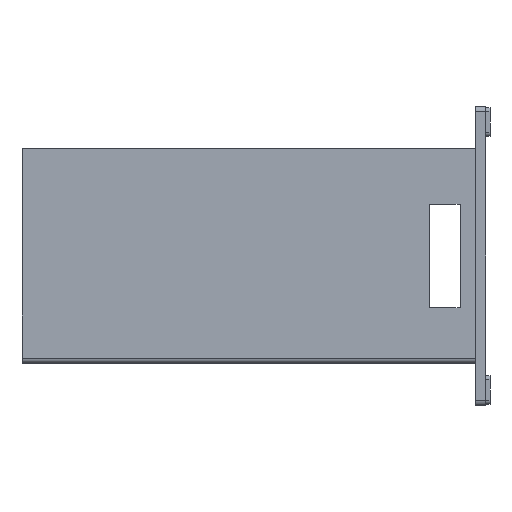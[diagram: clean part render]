
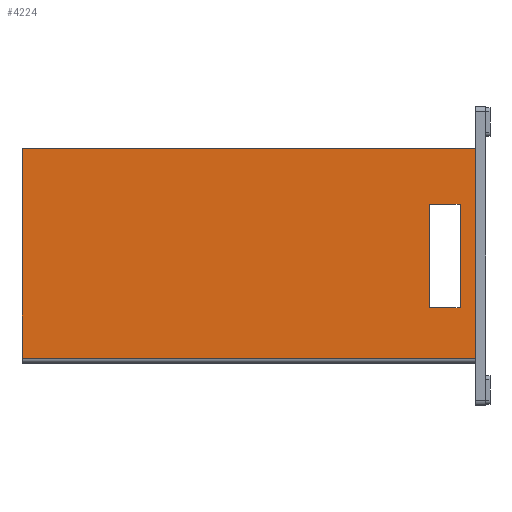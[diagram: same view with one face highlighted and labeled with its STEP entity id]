
A CAD part, left-side view. The second image highlights one B-rep face of the part: STEP entity #4224.
In plain terms, the highlighted planar face has unit normal (-1, 0, 0).
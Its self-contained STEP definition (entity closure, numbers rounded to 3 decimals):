
#2 = FACE_BOUND ( 'NONE', #1280, .T. ) ;
#41 = LINE ( 'NONE', #3788, #648 ) ;
#218 = AXIS2_PLACEMENT_3D ( 'NONE', #3032, #219, #1450 ) ;
#219 = DIRECTION ( 'NONE',  ( 1., 0., 0. ) ) ;
#224 = CARTESIAN_POINT ( 'NONE',  ( -208., 40., -100. ) ) ;
#249 = ORIENTED_EDGE ( 'NONE', *, *, #682, .F. ) ;
#410 = EDGE_CURVE ( 'NONE', #2257, #2829, #4633, .T. ) ;
#477 = VECTOR ( 'NONE', #2692, 1000. ) ;
#488 = DIRECTION ( 'NONE',  ( 0., 0., 1. ) ) ;
#492 = EDGE_LOOP ( 'NONE', ( #3376, #699, #3505, #4834 ) ) ;
#529 = DIRECTION ( 'NONE',  ( 0., -1., 0. ) ) ;
#583 = CARTESIAN_POINT ( 'NONE',  ( -208., 10., -290. ) ) ;
#615 = CARTESIAN_POINT ( 'NONE',  ( -208., 890., -198. ) ) ;
#648 = VECTOR ( 'NONE', #781, 1000. ) ;
#682 = EDGE_CURVE ( 'NONE', #2829, #2181, #3855, .T. ) ;
#693 = VERTEX_POINT ( 'NONE', #2148 ) ;
#699 = ORIENTED_EDGE ( 'NONE', *, *, #855, .F. ) ;
#745 = CARTESIAN_POINT ( 'NONE',  ( -208., 100., 100. ) ) ;
#746 = CARTESIAN_POINT ( 'NONE',  ( -208., 10., 208. ) ) ;
#765 = EDGE_CURVE ( 'NONE', #693, #2257, #5188, .T. ) ;
#781 = DIRECTION ( 'NONE',  ( 0., -1., 0. ) ) ;
#855 = EDGE_CURVE ( 'NONE', #3324, #4358, #41, .T. ) ;
#948 = VECTOR ( 'NONE', #1211, 1000. ) ;
#1064 = EDGE_CURVE ( 'NONE', #5016, #3324, #4460, .T. ) ;
#1076 = EDGE_CURVE ( 'NONE', #5016, #2952, #3336, .T. ) ;
#1135 = DIRECTION ( 'NONE',  ( 0., 0., -1. ) ) ;
#1139 = VECTOR ( 'NONE', #1135, 1000. ) ;
#1211 = DIRECTION ( 'NONE',  ( 0., 1., 0. ) ) ;
#1280 = EDGE_LOOP ( 'NONE', ( #2855, #3455, #3751, #249 ) ) ;
#1450 = DIRECTION ( 'NONE',  ( 0., 0., -1. ) ) ;
#1458 = DIRECTION ( 'NONE',  ( 0., 0., -1. ) ) ;
#1704 = CARTESIAN_POINT ( 'NONE',  ( -208., 100., -100. ) ) ;
#1845 = CARTESIAN_POINT ( 'NONE',  ( -208., 100., -100. ) ) ;
#1862 = PLANE ( 'NONE',  #218 ) ;
#1959 = EDGE_CURVE ( 'NONE', #2181, #693, #3247, .T. ) ;
#2035 = LINE ( 'NONE', #583, #1139 ) ;
#2148 = CARTESIAN_POINT ( 'NONE',  ( -208., 40., 100. ) ) ;
#2181 = VERTEX_POINT ( 'NONE', #224 ) ;
#2257 = VERTEX_POINT ( 'NONE', #745 ) ;
#2361 = FACE_OUTER_BOUND ( 'NONE', #492, .T. ) ;
#2574 = CARTESIAN_POINT ( 'NONE',  ( -208., 100., 100. ) ) ;
#2638 = CARTESIAN_POINT ( 'NONE',  ( -208., 100., -100. ) ) ;
#2692 = DIRECTION ( 'NONE',  ( 0., -1., 0. ) ) ;
#2829 = VERTEX_POINT ( 'NONE', #2638 ) ;
#2855 = ORIENTED_EDGE ( 'NONE', *, *, #410, .F. ) ;
#2865 = VECTOR ( 'NONE', #1458, 1000. ) ;
#2952 = VERTEX_POINT ( 'NONE', #3811 ) ;
#3032 = CARTESIAN_POINT ( 'NONE',  ( -208., 890., -208. ) ) ;
#3090 = CARTESIAN_POINT ( 'NONE',  ( -208., 890., 208. ) ) ;
#3184 = CARTESIAN_POINT ( 'NONE',  ( -208., 40., -100. ) ) ;
#3247 = LINE ( 'NONE', #3184, #3626 ) ;
#3324 = VERTEX_POINT ( 'NONE', #3090 ) ;
#3336 = LINE ( 'NONE', #5101, #3780 ) ;
#3376 = ORIENTED_EDGE ( 'NONE', *, *, #3782, .F. ) ;
#3455 = ORIENTED_EDGE ( 'NONE', *, *, #765, .F. ) ;
#3505 = ORIENTED_EDGE ( 'NONE', *, *, #1064, .F. ) ;
#3626 = VECTOR ( 'NONE', #488, 1000. ) ;
#3751 = ORIENTED_EDGE ( 'NONE', *, *, #1959, .F. ) ;
#3780 = VECTOR ( 'NONE', #529, 1000. ) ;
#3782 = EDGE_CURVE ( 'NONE', #4358, #2952, #2035, .T. ) ;
#3788 = CARTESIAN_POINT ( 'NONE',  ( -208., 890., 208. ) ) ;
#3811 = CARTESIAN_POINT ( 'NONE',  ( -208., 10., -198. ) ) ;
#3855 = LINE ( 'NONE', #1845, #477 ) ;
#4224 = ADVANCED_FACE ( 'NONE', ( #2361, #2 ), #1862, .F. ) ;
#4358 = VERTEX_POINT ( 'NONE', #746 ) ;
#4435 = CARTESIAN_POINT ( 'NONE',  ( -208., 890., -208. ) ) ;
#4460 = LINE ( 'NONE', #4435, #4693 ) ;
#4633 = LINE ( 'NONE', #1704, #2865 ) ;
#4693 = VECTOR ( 'NONE', #4737, 1000. ) ;
#4737 = DIRECTION ( 'NONE',  ( 0., 0., 1. ) ) ;
#4834 = ORIENTED_EDGE ( 'NONE', *, *, #1076, .T. ) ;
#5016 = VERTEX_POINT ( 'NONE', #615 ) ;
#5101 = CARTESIAN_POINT ( 'NONE',  ( -208., 890., -198. ) ) ;
#5188 = LINE ( 'NONE', #2574, #948 ) ;
